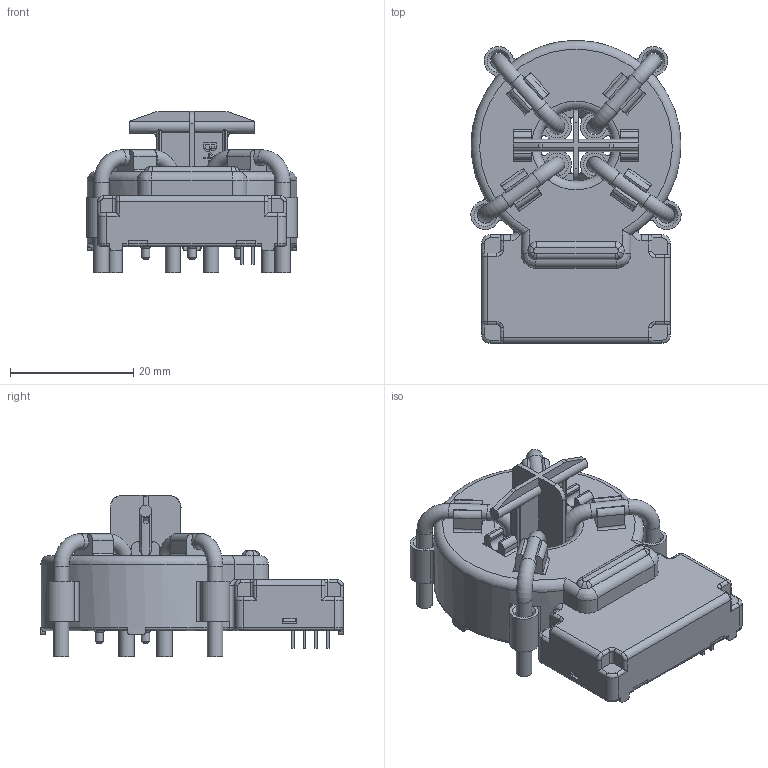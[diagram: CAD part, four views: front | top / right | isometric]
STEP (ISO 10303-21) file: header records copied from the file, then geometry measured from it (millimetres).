
FILE_DESCRIPTION(/* description */ (''),/* implementation_level */ '2;1');
FILE_NAME(/* name */ 'G:\KB-FTKon\CAD\Inventor\Bauelementnummer\4641-X920 - Homepagemodel\4641-X920_Shrinkwrap_1.stp',/* time_stamp */ '2019-06-07T14:08:57+02:00',/* author */ ('de041100'),/* organization */ (''),/* preprocessor_version */ 'ST-DEVELOPER v18',/* originating_system */ 'Autodesk Inventor 2020',/* authorisation */ '');
FILE_SCHEMA (('AUTOMOTIVE_DESIGN { 1 0 10303 214 3 1 1 }'));
Length unit declared in the file: inch
Products named in the file (1): 4641-X920_Shrinkwrap_1
Bounding box: 34.05 x 49.05 x 26.08 mm (x, y, z)
Volume: 16183.3 mm3; surface area: 8481.7 mm2
Topology: 2 solids, 2 shells, 867 faces, 2315 edges, 1501 vertices
Faces by surface type: plane 434, cylinder 212, bspline 164, torus 46, cone 11
Full cylindrical faces by diameter (mm): 1.35 x3, 2.5 x12, 2.7 x8, 11.6 x1, 13.306 x1, 13.4 x1
Entity records: 29790 total; most frequent: CARTESIAN_POINT 7870, ORIENTED_EDGE 4634, DIRECTION 3960, EDGE_CURVE 2317, VERTEX_POINT 1503, LINE 1346, VECTOR 1346, AXIS2_PLACEMENT_3D 1307
